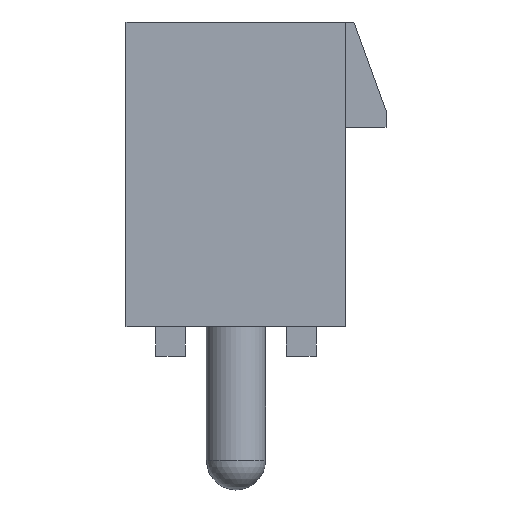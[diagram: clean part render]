
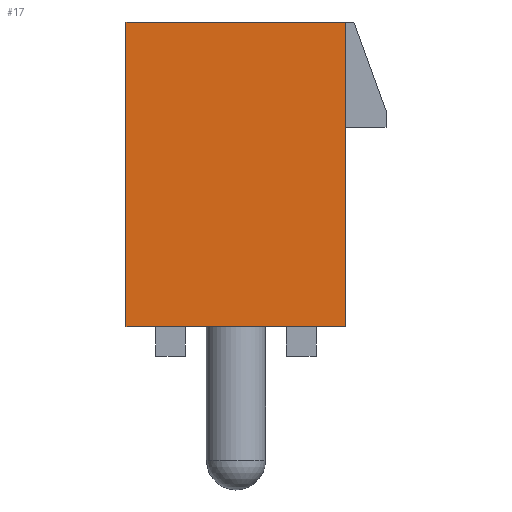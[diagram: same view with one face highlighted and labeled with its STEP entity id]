
A CAD part, left-side view. The second image highlights one B-rep face of the part: STEP entity #17.
In plain terms, the highlighted planar face has unit normal (-1, 0, 0).
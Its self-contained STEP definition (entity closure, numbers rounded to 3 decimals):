
#17 = ADVANCED_FACE('',(#18),#32,.F.);
#18 = FACE_BOUND('',#19,.F.);
#19 = EDGE_LOOP('',(#20,#55,#83,#111,#139));
#20 = ORIENTED_EDGE('',*,*,#21,.F.);
#21 = EDGE_CURVE('',#22,#24,#26,.T.);
#22 = VERTEX_POINT('',#23);
#23 = CARTESIAN_POINT('',(-14.5,-3.7,1.));
#24 = VERTEX_POINT('',#25);
#25 = CARTESIAN_POINT('',(-14.5,-3.7,7.7));
#26 = SURFACE_CURVE('',#27,(#31,#43),.PCURVE_S1.);
#27 = LINE('',#28,#29);
#28 = CARTESIAN_POINT('',(-14.5,-3.7,1.));
#29 = VECTOR('',#30,1.);
#30 = DIRECTION('',(0.,0.,1.));
#31 = PCURVE('',#32,#37);
#32 = PLANE('',#33);
#33 = AXIS2_PLACEMENT_3D('',#34,#35,#36);
#34 = CARTESIAN_POINT('',(-14.5,-3.7,1.));
#35 = DIRECTION('',(1.,0.,0.));
#36 = DIRECTION('',(0.,0.,1.));
#37 = DEFINITIONAL_REPRESENTATION('',(#38),#42);
#38 = LINE('',#39,#40);
#39 = CARTESIAN_POINT('',(0.,0.));
#40 = VECTOR('',#41,1.);
#41 = DIRECTION('',(1.,0.));
#42 = ( GEOMETRIC_REPRESENTATION_CONTEXT(2) 
PARAMETRIC_REPRESENTATION_CONTEXT() REPRESENTATION_CONTEXT('2D SPACE',''
  ) );
#43 = PCURVE('',#44,#49);
#44 = PLANE('',#45);
#45 = AXIS2_PLACEMENT_3D('',#46,#47,#48);
#46 = CARTESIAN_POINT('',(-14.5,-3.7,1.));
#47 = DIRECTION('',(0.,1.,0.));
#48 = DIRECTION('',(0.,0.,1.));
#49 = DEFINITIONAL_REPRESENTATION('',(#50),#54);
#50 = LINE('',#51,#52);
#51 = CARTESIAN_POINT('',(0.,0.));
#52 = VECTOR('',#53,1.);
#53 = DIRECTION('',(1.,0.));
#54 = ( GEOMETRIC_REPRESENTATION_CONTEXT(2) 
PARAMETRIC_REPRESENTATION_CONTEXT() REPRESENTATION_CONTEXT('2D SPACE',''
  ) );
#55 = ORIENTED_EDGE('',*,*,#56,.T.);
#56 = EDGE_CURVE('',#22,#57,#59,.T.);
#57 = VERTEX_POINT('',#58);
#58 = CARTESIAN_POINT('',(-14.5,3.7,1.));
#59 = SURFACE_CURVE('',#60,(#64,#71),.PCURVE_S1.);
#60 = LINE('',#61,#62);
#61 = CARTESIAN_POINT('',(-14.5,-3.7,1.));
#62 = VECTOR('',#63,1.);
#63 = DIRECTION('',(0.,1.,0.));
#64 = PCURVE('',#32,#65);
#65 = DEFINITIONAL_REPRESENTATION('',(#66),#70);
#66 = LINE('',#67,#68);
#67 = CARTESIAN_POINT('',(0.,0.));
#68 = VECTOR('',#69,1.);
#69 = DIRECTION('',(0.,-1.));
#70 = ( GEOMETRIC_REPRESENTATION_CONTEXT(2) 
PARAMETRIC_REPRESENTATION_CONTEXT() REPRESENTATION_CONTEXT('2D SPACE',''
  ) );
#71 = PCURVE('',#72,#77);
#72 = PLANE('',#73);
#73 = AXIS2_PLACEMENT_3D('',#74,#75,#76);
#74 = CARTESIAN_POINT('',(-14.5,-3.7,1.));
#75 = DIRECTION('',(0.,0.,1.));
#76 = DIRECTION('',(1.,0.,0.));
#77 = DEFINITIONAL_REPRESENTATION('',(#78),#82);
#78 = LINE('',#79,#80);
#79 = CARTESIAN_POINT('',(0.,0.));
#80 = VECTOR('',#81,1.);
#81 = DIRECTION('',(0.,1.));
#82 = ( GEOMETRIC_REPRESENTATION_CONTEXT(2) 
PARAMETRIC_REPRESENTATION_CONTEXT() REPRESENTATION_CONTEXT('2D SPACE',''
  ) );
#83 = ORIENTED_EDGE('',*,*,#84,.T.);
#84 = EDGE_CURVE('',#57,#85,#87,.T.);
#85 = VERTEX_POINT('',#86);
#86 = CARTESIAN_POINT('',(-14.5,3.7,11.25));
#87 = SURFACE_CURVE('',#88,(#92,#99),.PCURVE_S1.);
#88 = LINE('',#89,#90);
#89 = CARTESIAN_POINT('',(-14.5,3.7,1.));
#90 = VECTOR('',#91,1.);
#91 = DIRECTION('',(0.,0.,1.));
#92 = PCURVE('',#32,#93);
#93 = DEFINITIONAL_REPRESENTATION('',(#94),#98);
#94 = LINE('',#95,#96);
#95 = CARTESIAN_POINT('',(0.,-7.4));
#96 = VECTOR('',#97,1.);
#97 = DIRECTION('',(1.,0.));
#98 = ( GEOMETRIC_REPRESENTATION_CONTEXT(2) 
PARAMETRIC_REPRESENTATION_CONTEXT() REPRESENTATION_CONTEXT('2D SPACE',''
  ) );
#99 = PCURVE('',#100,#105);
#100 = PLANE('',#101);
#101 = AXIS2_PLACEMENT_3D('',#102,#103,#104);
#102 = CARTESIAN_POINT('',(-14.5,3.7,1.));
#103 = DIRECTION('',(0.,1.,0.));
#104 = DIRECTION('',(0.,0.,1.));
#105 = DEFINITIONAL_REPRESENTATION('',(#106),#110);
#106 = LINE('',#107,#108);
#107 = CARTESIAN_POINT('',(0.,0.));
#108 = VECTOR('',#109,1.);
#109 = DIRECTION('',(1.,0.));
#110 = ( GEOMETRIC_REPRESENTATION_CONTEXT(2) 
PARAMETRIC_REPRESENTATION_CONTEXT() REPRESENTATION_CONTEXT('2D SPACE',''
  ) );
#111 = ORIENTED_EDGE('',*,*,#112,.F.);
#112 = EDGE_CURVE('',#113,#85,#115,.T.);
#113 = VERTEX_POINT('',#114);
#114 = CARTESIAN_POINT('',(-14.5,-3.7,11.25));
#115 = SURFACE_CURVE('',#116,(#120,#127),.PCURVE_S1.);
#116 = LINE('',#117,#118);
#117 = CARTESIAN_POINT('',(-14.5,-3.7,11.25));
#118 = VECTOR('',#119,1.);
#119 = DIRECTION('',(0.,1.,0.));
#120 = PCURVE('',#32,#121);
#121 = DEFINITIONAL_REPRESENTATION('',(#122),#126);
#122 = LINE('',#123,#124);
#123 = CARTESIAN_POINT('',(10.25,0.));
#124 = VECTOR('',#125,1.);
#125 = DIRECTION('',(0.,-1.));
#126 = ( GEOMETRIC_REPRESENTATION_CONTEXT(2) 
PARAMETRIC_REPRESENTATION_CONTEXT() REPRESENTATION_CONTEXT('2D SPACE',''
  ) );
#127 = PCURVE('',#128,#133);
#128 = PLANE('',#129);
#129 = AXIS2_PLACEMENT_3D('',#130,#131,#132);
#130 = CARTESIAN_POINT('',(-14.5,-3.7,11.25));
#131 = DIRECTION('',(0.,0.,1.));
#132 = DIRECTION('',(1.,0.,0.));
#133 = DEFINITIONAL_REPRESENTATION('',(#134),#138);
#134 = LINE('',#135,#136);
#135 = CARTESIAN_POINT('',(0.,0.));
#136 = VECTOR('',#137,1.);
#137 = DIRECTION('',(0.,1.));
#138 = ( GEOMETRIC_REPRESENTATION_CONTEXT(2) 
PARAMETRIC_REPRESENTATION_CONTEXT() REPRESENTATION_CONTEXT('2D SPACE',''
  ) );
#139 = ORIENTED_EDGE('',*,*,#140,.F.);
#140 = EDGE_CURVE('',#24,#113,#141,.T.);
#141 = SURFACE_CURVE('',#142,(#146,#153),.PCURVE_S1.);
#142 = LINE('',#143,#144);
#143 = CARTESIAN_POINT('',(-14.5,-3.7,1.));
#144 = VECTOR('',#145,1.);
#145 = DIRECTION('',(0.,0.,1.));
#146 = PCURVE('',#32,#147);
#147 = DEFINITIONAL_REPRESENTATION('',(#148),#152);
#148 = LINE('',#149,#150);
#149 = CARTESIAN_POINT('',(0.,0.));
#150 = VECTOR('',#151,1.);
#151 = DIRECTION('',(1.,0.));
#152 = ( GEOMETRIC_REPRESENTATION_CONTEXT(2) 
PARAMETRIC_REPRESENTATION_CONTEXT() REPRESENTATION_CONTEXT('2D SPACE',''
  ) );
#153 = PCURVE('',#154,#159);
#154 = PLANE('',#155);
#155 = AXIS2_PLACEMENT_3D('',#156,#157,#158);
#156 = CARTESIAN_POINT('',(-14.5,-5.05,7.7));
#157 = DIRECTION('',(1.,0.,0.));
#158 = DIRECTION('',(0.,0.,1.));
#159 = DEFINITIONAL_REPRESENTATION('',(#160),#164);
#160 = LINE('',#161,#162);
#161 = CARTESIAN_POINT('',(-6.7,-1.35));
#162 = VECTOR('',#163,1.);
#163 = DIRECTION('',(1.,0.));
#164 = ( GEOMETRIC_REPRESENTATION_CONTEXT(2) 
PARAMETRIC_REPRESENTATION_CONTEXT() REPRESENTATION_CONTEXT('2D SPACE',''
  ) );
